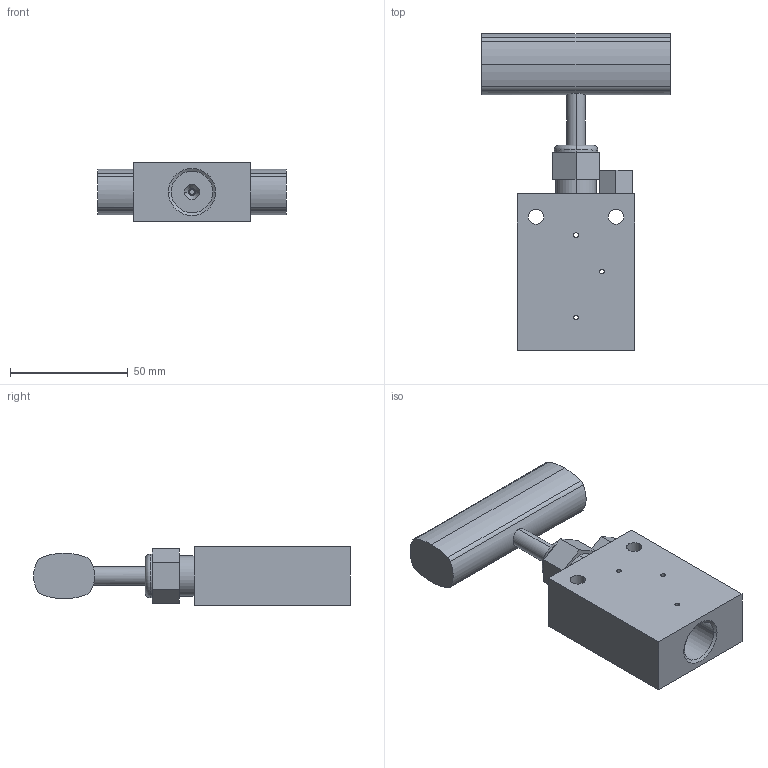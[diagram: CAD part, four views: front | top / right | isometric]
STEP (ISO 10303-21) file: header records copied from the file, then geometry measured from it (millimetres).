
FILE_DESCRIPTION (( 'STEP AP203' ), '1' );
FILE_NAME ('NV60VS06-A-00-00.STEP', '2023-02-21T05:46:43', ( 'USER' ), ( '' ), 'SwSTEP 2.0', 'SolidWorks 2020', '' );
FILE_SCHEMA (( 'CONFIG_CONTROL_DESIGN' ));
Length unit declared in the file: millimetre
Products named in the file (1): NV60VS06-A-00-00
Bounding box: 80 x 134.71 x 25 mm (x, y, z)
Volume: 116357.3 mm3; surface area: 25003.7 mm2
Topology: 1 solids, 1 shells, 89 faces, 220 edges, 138 vertices
Faces by surface type: cylinder 45, plane 28, cone 14, torus 2
Entity records: 3075 total; most frequent: CARTESIAN_POINT 808, DIRECTION 470, ORIENTED_EDGE 440, EDGE_CURVE 220, AXIS2_PLACEMENT_3D 178, VERTEX_POINT 138, EDGE_LOOP 114, LINE 114
